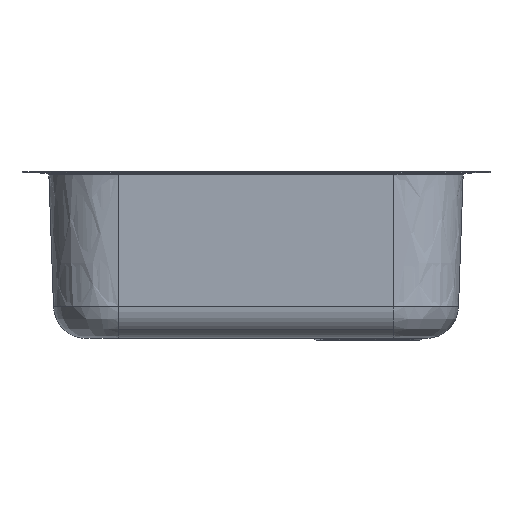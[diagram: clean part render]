
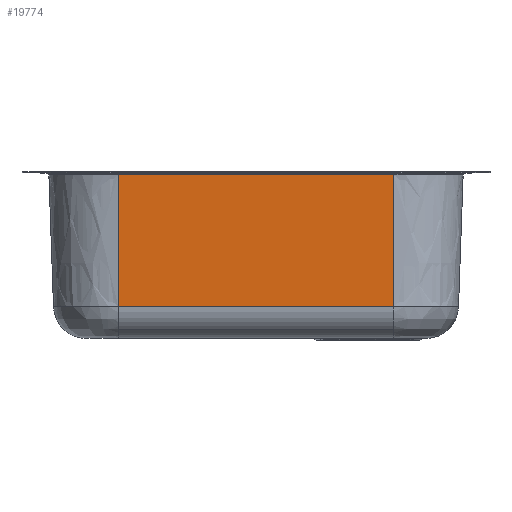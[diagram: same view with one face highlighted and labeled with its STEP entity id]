
A CAD part, left-side view. The second image highlights one B-rep face of the part: STEP entity #19774.
In plain terms, the highlighted planar face has unit normal (-0.999, 0, -0.035).
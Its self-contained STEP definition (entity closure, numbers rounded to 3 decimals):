
#18044=CARTESIAN_POINT('Vertex',(-410.684,-150.09,-146.246)) ;
#18432=CARTESIAN_POINT('Vertex',(-410.684,150.09,-146.246)) ;
#19058=CARTESIAN_POINT('Vertex',(-415.7,-150.09,-2.63)) ;
#19062=CARTESIAN_POINT('Control Point',(-410.684,-150.09,-146.246)) ;
#19063=CARTESIAN_POINT('Control Point',(-412.356,-150.09,-98.374)) ;
#19064=CARTESIAN_POINT('Control Point',(-414.028,-150.09,-50.502)) ;
#19065=CARTESIAN_POINT('Control Point',(-415.7,-150.09,-2.63)) ;
#19079=CARTESIAN_POINT('Line Origine',(-410.684,0.,-146.246)) ;
#19129=CARTESIAN_POINT('Control Point',(-410.684,150.09,-146.246)) ;
#19130=CARTESIAN_POINT('Control Point',(-412.356,150.09,-98.374)) ;
#19131=CARTESIAN_POINT('Control Point',(-414.028,150.09,-50.502)) ;
#19132=CARTESIAN_POINT('Control Point',(-415.7,150.09,-2.63)) ;
#19133=CARTESIAN_POINT('Vertex',(-415.7,150.09,-2.63)) ;
#19758=CARTESIAN_POINT('Axis2P3D Location',(-412.648,0.,-90.024)) ;
#19763=CARTESIAN_POINT('Line Origine',(-415.7,0.,-2.63)) ;
#19080=DIRECTION('Vector Direction',(0.,-1.,0.)) ;
#19759=DIRECTION('Axis2P3D Direction',(-0.999,-0.,-0.035)) ;
#19760=DIRECTION('Axis2P3D XDirection',(0.,-1.,0.)) ;
#19764=DIRECTION('Vector Direction',(0.,-1.,0.)) ;
#19761=AXIS2_PLACEMENT_3D('Plane Axis2P3D',#19758,#19759,#19760) ;
#19769=ORIENTED_EDGE('',*,*,#19083,.T.) ;
#19770=ORIENTED_EDGE('',*,*,#19066,.T.) ;
#19771=ORIENTED_EDGE('',*,*,#19767,.T.) ;
#19772=ORIENTED_EDGE('',*,*,#19135,.F.) ;
#19081=VECTOR('Line Direction',#19080,1.) ;
#19765=VECTOR('Line Direction',#19764,1.) ;
#19774=ADVANCED_FACE('Vasca 45 dx',(#19773),#19762,.T.) ;
#19061=B_SPLINE_CURVE_WITH_KNOTS('',3,(#19062,#19063,#19064,#19065),.UNSPECIFIED.,.F.,.U.,(4,4),(33.799,177.505),.UNSPECIFIED.) ;
#19128=B_SPLINE_CURVE_WITH_KNOTS('',3,(#19129,#19130,#19131,#19132),.UNSPECIFIED.,.F.,.U.,(4,4),(33.799,177.505),.UNSPECIFIED.) ;
#19066=EDGE_CURVE('',#18045,#19059,#19061,.T.) ;
#19083=EDGE_CURVE('',#18433,#18045,#19082,.T.) ;
#19135=EDGE_CURVE('',#18433,#19134,#19128,.T.) ;
#19767=EDGE_CURVE('',#19059,#19134,#19766,.F.) ;
#19768=EDGE_LOOP('',(#19769,#19770,#19771,#19772)) ;
#19773=FACE_OUTER_BOUND('',#19768,.T.) ;
#19082=LINE('Line',#19079,#19081) ;
#19766=LINE('Line',#19763,#19765) ;
#19762=PLANE('',#19761) ;
#18045=VERTEX_POINT('',#18044) ;
#18433=VERTEX_POINT('',#18432) ;
#19059=VERTEX_POINT('',#19058) ;
#19134=VERTEX_POINT('',#19133) ;
